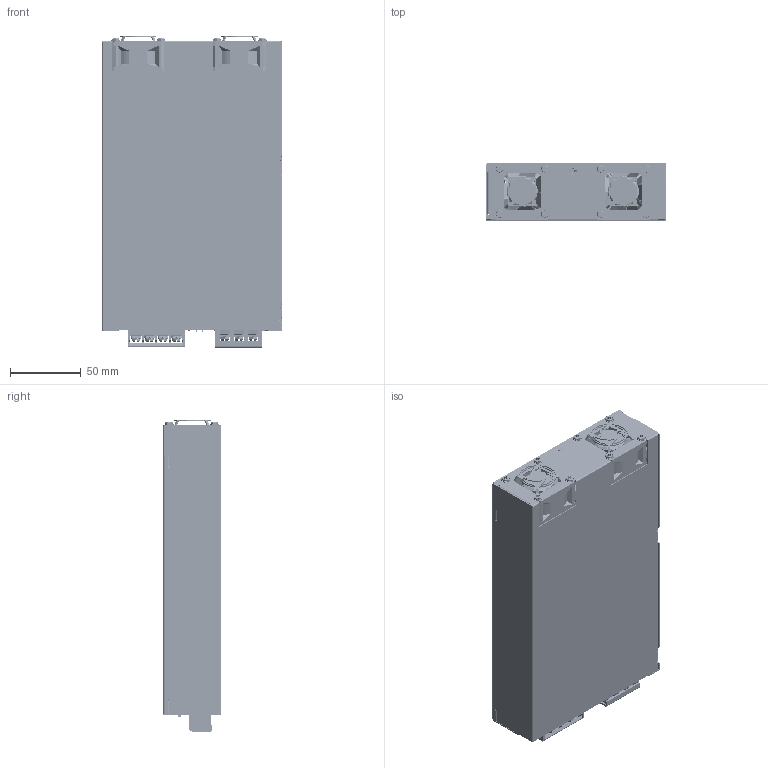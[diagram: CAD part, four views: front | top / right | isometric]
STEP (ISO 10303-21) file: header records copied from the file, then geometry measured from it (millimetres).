
FILE_DESCRIPTION (( 'STEP AP214' ), '1' );
FILE_NAME ('PMR-24V1K5W1BMB251119.STEP', '2025-11-19T06:25:00', ( '' ), ( '' ), 'SwSTEP 2.0', 'SolidWorks 2020', '' );
FILE_SCHEMA (( 'AUTOMOTIVE_DESIGN' ));
Length unit declared in the file: millimetre
Products named in the file (1167): OPEN_CASCADE_STEP_TRANSL-153709; R801_ASM; R310_ASM; WIRE_6_ASM_ASM; C176_ASM; _0603-SCE_-_IR0603-R_-419224_4; 1511442002_0603-SCE-C-559561_1; FB902_ASM; 202840060007_SOD323_ASM; 2001_PQ32_28_CORE_3ND; OPEN_CASCADE_STEP_TRANSL-128197; OPEN_CASCADE_STEP_TRANSL-109635; OPEN_CASCADE_STEP_TRANSL-194541; R827_ASM; D961_ASM; C628_ASM; R210_ASM; OPEN_CASCADE_STEP_TRANSLA-56241; OPEN_CASCADE_STEP_TRANSL-160665; R319_ASM; 2875399800_HFV-MPS16031-A_ASM; C901_ASM; C149_ASM; 1511442002_0603-SCE-C-559561_ASM; C109_ASM; R109_ASM; OPEN_CASCADE_STEP_TRANSL-138642; T23PFK28; R158_ASM; RL1_ASM; D11_ASM; C117_ASM; C216_ASM; Q901_ASM; OPEN_CASCADE_STEP_TRANSLA-63207; R820_ASM; BD2_ASM; FB55_ASM; L702_ASM; OPEN_CASCADE_STEP_TRANSL-116597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
Assembly tree (1844 placements, depth 10):
  PMR-24V1K5W1BMB251119
    CHASSIS
    CHASSIS-STANDOFF_4
    STANDOFF_M3X5
    STANDOFF_M3X4_1_2  x2
    BOTTOM_INSULATOR
    FAN_4CM_20  x2
    3105325400-L10  x8
    3105318101-L5  x5
    MEB-1K5A24T_AAAR4C0_ASM
      PCB_ASM
        BOARD-2445
        Q933_ASM
          210553510107
        Q932_ASM
          210553510107
        Q902_ASM
          210553510107
        J1_ASM
          3353615600
        L2_ASM
          L1-2878433902_PFCH-IPS20124_ASM
            2001_PQ32_28_CORE_3ND  x2
            2002_PQ32_28_BBN_3ND
            WIRE-33604_ASM
              OPEN_CASCADE_STEP_TRANSLA-34186
              OPEN_CASCADE_STEP_TRANSLA-35343
              OPEN_CASCADE_STEP_TRANSLA-36502
              OPEN_CASCADE_STEP_TRANSLA-37663
              OPEN_CASCADE_STEP_TRANSLA-38824
              OPEN_CASCADE_STEP_TRANSLA-39987
              OPEN_CASCADE_STEP_TRANSLA-41152
              OPEN_CASCADE_STEP_TRANSLA-42309
              OPEN_CASCADE_STEP_TRANSLA-43468
              OPEN_CASCADE_STEP_TRANSLA-44629
              OPEN_CASCADE_STEP_TRANSLA-45790
              OPEN_CASCADE_STEP_TRANSLA-46953
              OPEN_CASCADE_STEP_TRANSLA-48118
              OPEN_CASCADE_STEP_TRANSLA-49275
              OPEN_CASCADE_STEP_TRANSLA-50434
              OPEN_CASCADE_STEP_TRANSLA-51595
              OPEN_CASCADE_STEP_TRANSLA-52756
              OPEN_CASCADE_STEP_TRANSLA-53919
              OPEN_CASCADE_STEP_TRANSLA-55084
              OPEN_CASCADE_STEP_TRANSLA-56241
              OPEN_CASCADE_STEP_TRANSLA-57400
              OPEN_CASCADE_STEP_TRANSLA-58561
              OPEN_CASCADE_STEP_TRANSLA-59722
              OPEN_CASCADE_STEP_TRANSLA-60885
              OPEN_CASCADE_STEP_TRANSLA-62050
              OPEN_CASCADE_STEP_TRANSLA-63207
              OPEN_CASCADE_STEP_TRANSLA-64366
              OPEN_CASCADE_STEP_TRANSLA-65527
              OPEN_CASCADE_STEP_TRANSLA-66688
              OPEN_CASCADE_STEP_TRANSLA-67851
              OPEN_CASCADE_STEP_TRANSLA-69016
              OPEN_CASCADE_STEP_TRANSLA-70173
              OPEN_CASCADE_STEP_TRANSLA-71332
              OPEN_CASCADE_STEP_TRANSLA-72493
              OPEN_CASCADE_STEP_TRANSLA-73654
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Bounding box: 127 x 40.5 x 220.1 mm (x, y, z)
Topology: 1 solids, 50210 shells, 52451 faces, 247612 edges, 243428 vertices
Faces by surface type: plane 30385, cylinder 14617, bspline 6738, cone 544, torus 167
Full cylindrical faces by diameter (mm): 0.931 x1, 15.5 x1
Entity records: 1194047 total; most frequent: CARTESIAN_POINT 454336, DIRECTION 109658, ORIENTED_EDGE 77793, EDGE_CURVE 75642, VERTEX_POINT 74350, LINE 43474, VECTOR 43474, AXIS2_PLACEMENT_3D 33092
